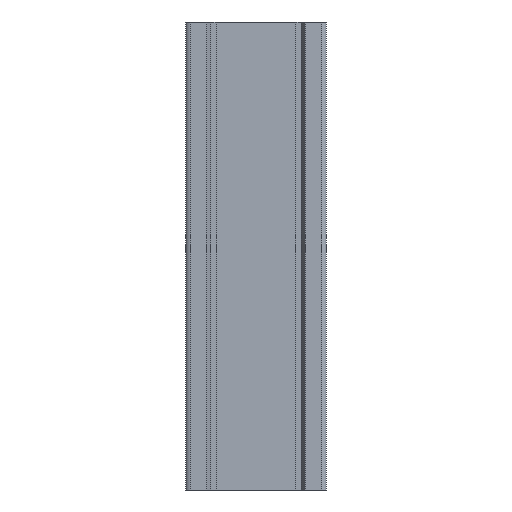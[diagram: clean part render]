
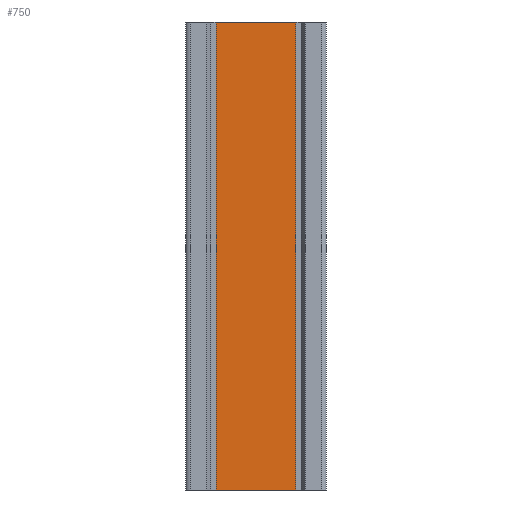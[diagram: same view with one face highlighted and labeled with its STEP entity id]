
A CAD part, left-side view. The second image highlights one B-rep face of the part: STEP entity #750.
In plain terms, the highlighted planar face has unit normal (-1, 0, 0).
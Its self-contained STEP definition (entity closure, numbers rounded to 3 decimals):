
#6 = CARTESIAN_POINT ( 'NONE',  ( -3.5, -8.5, -100. ) ) ;
#9 = VERTEX_POINT ( 'NONE', #881 ) ;
#20 = FACE_OUTER_BOUND ( 'NONE', #126, .T. ) ;
#31 = VECTOR ( 'NONE', #981, 1000. ) ;
#126 = EDGE_LOOP ( 'NONE', ( #155, #707, #888, #487 ) ) ;
#155 = ORIENTED_EDGE ( 'NONE', *, *, #329, .F. ) ;
#166 = CARTESIAN_POINT ( 'NONE',  ( -3.5, 8.5, -100. ) ) ;
#244 = PLANE ( 'NONE',  #601 ) ;
#248 = VECTOR ( 'NONE', #729, 1000. ) ;
#329 = EDGE_CURVE ( 'NONE', #1172, #9, #1087, .T. ) ;
#404 = CARTESIAN_POINT ( 'NONE',  ( -3.5, 8.5, 0. ) ) ;
#487 = ORIENTED_EDGE ( 'NONE', *, *, #1128, .T. ) ;
#538 = DIRECTION ( 'NONE',  ( 0., -1., 0. ) ) ;
#573 = CARTESIAN_POINT ( 'NONE',  ( -3.5, 8.5, -100. ) ) ;
#590 = DIRECTION ( 'NONE',  ( 0., -1., 0. ) ) ;
#601 = AXIS2_PLACEMENT_3D ( 'NONE', #815, #1014, #538 ) ;
#666 = DIRECTION ( 'NONE',  ( 0., 0., 1. ) ) ;
#683 = CARTESIAN_POINT ( 'NONE',  ( -3.5, 8.5, -100. ) ) ;
#707 = ORIENTED_EDGE ( 'NONE', *, *, #1102, .F. ) ;
#729 = DIRECTION ( 'NONE',  ( 0., -1., 0. ) ) ;
#750 = ADVANCED_FACE ( 'NONE', ( #20 ), #244, .T. ) ;
#815 = CARTESIAN_POINT ( 'NONE',  ( -3.5, 8.5, -100. ) ) ;
#856 = VECTOR ( 'NONE', #666, 1000. ) ;
#881 = CARTESIAN_POINT ( 'NONE',  ( -3.5, -8.5, 0. ) ) ;
#888 = ORIENTED_EDGE ( 'NONE', *, *, #1177, .T. ) ;
#899 = VERTEX_POINT ( 'NONE', #166 ) ;
#919 = CARTESIAN_POINT ( 'NONE',  ( -3.5, 8.5, 0. ) ) ;
#968 = CARTESIAN_POINT ( 'NONE',  ( -3.5, -8.5, -100. ) ) ;
#981 = DIRECTION ( 'NONE',  ( 0., 0., 1. ) ) ;
#1014 = DIRECTION ( 'NONE',  ( -1., 0., 0. ) ) ;
#1015 = VERTEX_POINT ( 'NONE', #6 ) ;
#1021 = VECTOR ( 'NONE', #590, 1000. ) ;
#1035 = LINE ( 'NONE', #683, #1021 ) ;
#1055 = LINE ( 'NONE', #573, #856 ) ;
#1087 = LINE ( 'NONE', #919, #248 ) ;
#1102 = EDGE_CURVE ( 'NONE', #899, #1172, #1055, .T. ) ;
#1128 = EDGE_CURVE ( 'NONE', #1015, #9, #1223, .T. ) ;
#1172 = VERTEX_POINT ( 'NONE', #404 ) ;
#1177 = EDGE_CURVE ( 'NONE', #899, #1015, #1035, .T. ) ;
#1223 = LINE ( 'NONE', #968, #31 ) ;
